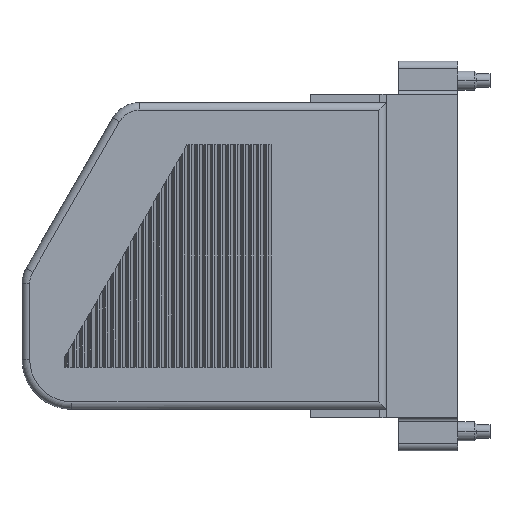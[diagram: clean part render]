
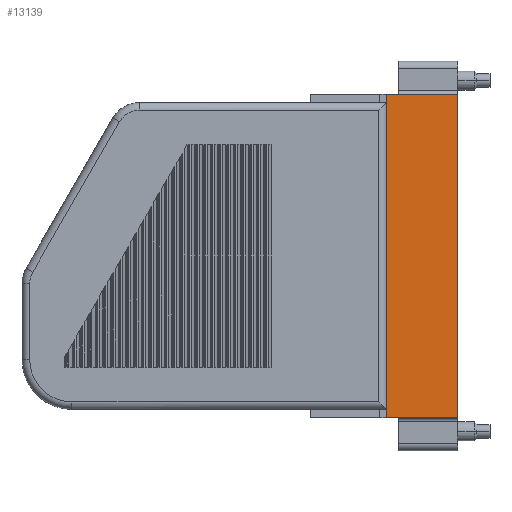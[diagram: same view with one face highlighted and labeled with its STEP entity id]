
A CAD part, front view. The second image highlights one B-rep face of the part: STEP entity #13139.
In plain terms, the highlighted planar face has unit normal (0, -1, 0).
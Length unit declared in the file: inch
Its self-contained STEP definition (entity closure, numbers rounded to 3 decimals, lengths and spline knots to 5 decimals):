
#469=DIRECTION('',(1.,0.,0.));
#470=VECTOR('',#469,0.36614);
#471=CARTESIAN_POINT('',(-0.06299,-0.03484,
-1.79016));
#472=LINE('',#471,#470);
#1480=DIRECTION('',(0.,0.,1.));
#1481=VECTOR('',#1480,1.65906);
#1482=CARTESIAN_POINT('',(-0.06299,-0.03484,
-1.79016));
#1483=LINE('',#1482,#1481);
#1487=DIRECTION('',(1.,0.,0.));
#1488=VECTOR('',#1487,0.36614);
#1489=CARTESIAN_POINT('',(-0.06299,-0.03484,
-0.1311));
#1490=LINE('',#1489,#1488);
#1494=DIRECTION('',(0.,0.,-1.));
#1495=VECTOR('',#1494,1.65906);
#1496=CARTESIAN_POINT('',(0.30315,-0.03484,
-0.1311));
#1497=LINE('',#1496,#1495);
#10961=CARTESIAN_POINT('',(0.30315,-0.03484,
-0.1311));
#10962=VERTEX_POINT('',#10961);
#10963=CARTESIAN_POINT('',(-0.06299,-0.03484,
-0.1311));
#10964=VERTEX_POINT('',#10963);
#11613=CARTESIAN_POINT('',(0.30315,-0.03484,
-1.79016));
#11614=VERTEX_POINT('',#11613);
#11708=CARTESIAN_POINT('',(-0.06299,-0.03484,
-1.79016));
#11709=VERTEX_POINT('',#11708);
#13127=CARTESIAN_POINT('',(0.12008,-0.03484,
-0.96063));
#13128=DIRECTION('',(0.,1.,0.));
#13129=DIRECTION('',(1.,0.,0.));
#13130=AXIS2_PLACEMENT_3D('',#13127,#13128,#13129);
#13131=PLANE('',#13130);
#13133=ORIENTED_EDGE('',*,*,#13132,.T.);
#13134=ORIENTED_EDGE('',*,*,#12772,.T.);
#13135=ORIENTED_EDGE('',*,*,#13007,.T.);
#13136=ORIENTED_EDGE('',*,*,#12598,.F.);
#13137=EDGE_LOOP('',(#13133,#13134,#13135,#13136));
#13138=FACE_OUTER_BOUND('',#13137,.F.);
#12598=EDGE_CURVE('',#11709,#11614,#472,.T.);
#12772=EDGE_CURVE('',#10964,#10962,#1490,.T.);
#13007=EDGE_CURVE('',#10962,#11614,#1497,.T.);
#13132=EDGE_CURVE('',#11709,#10964,#1483,.T.);
#13139=ADVANCED_FACE('',(#13138),#13131,.F.);
